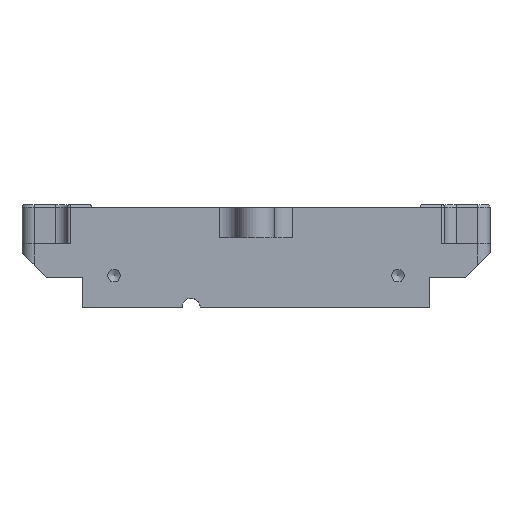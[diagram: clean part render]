
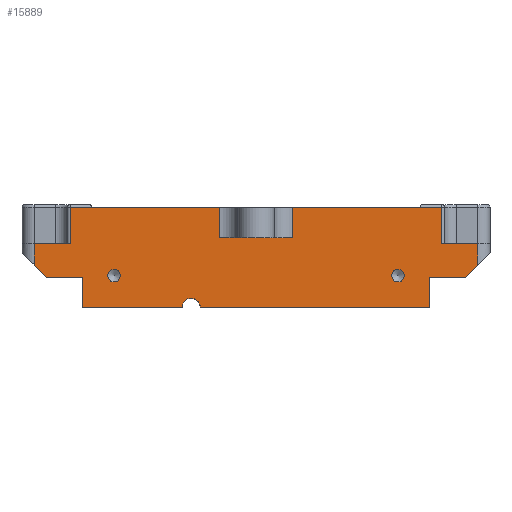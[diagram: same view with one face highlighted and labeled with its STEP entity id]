
A CAD part, left-side view. The second image highlights one B-rep face of the part: STEP entity #15889.
In plain terms, the highlighted planar face has unit normal (-1, 0, 0).
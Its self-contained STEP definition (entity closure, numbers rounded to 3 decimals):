
#299=FACE_BOUND('',#2519,.T.);
#300=FACE_BOUND('',#2520,.T.);
#633=PLANE('',#17609);
#1421=FACE_OUTER_BOUND('',#2518,.T.);
#2518=EDGE_LOOP('',(#13909,#13910,#13911,#13912,#13913,#13914,#13915,#13916,
#13917,#13918,#13919,#13920,#13921,#13922,#13923,#13924,#13925,#13926,#13927,
#13928,#13929,#13930));
#2519=EDGE_LOOP('',(#13931));
#2520=EDGE_LOOP('',(#13932));
#2960=LINE('',#24018,#4308);
#2963=LINE('',#24029,#4311);
#3768=LINE('',#26629,#5116);
#3771=LINE('',#26638,#5119);
#3821=LINE('',#26822,#5169);
#3852=LINE('',#26957,#5200);
#3855=LINE('',#26966,#5203);
#3857=LINE('',#26970,#5205);
#3858=LINE('',#26972,#5206);
#3859=LINE('',#26974,#5207);
#3860=LINE('',#26976,#5208);
#3861=LINE('',#26978,#5209);
#3862=LINE('',#26980,#5210);
#3863=LINE('',#26981,#5211);
#3864=LINE('',#26982,#5212);
#3865=LINE('',#26984,#5213);
#3866=LINE('',#26986,#5214);
#3867=LINE('',#26988,#5215);
#3868=LINE('',#26990,#5216);
#3869=LINE('',#26992,#5217);
#3870=LINE('',#26993,#5218);
#4308=VECTOR('',#18853,10.);
#4311=VECTOR('',#18862,10.);
#5116=VECTOR('',#21783,10.);
#5119=VECTOR('',#21792,10.);
#5169=VECTOR('',#21974,10.);
#5200=VECTOR('',#22085,10.);
#5203=VECTOR('',#22094,10.);
#5205=VECTOR('',#22098,10.);
#5206=VECTOR('',#22099,10.);
#5207=VECTOR('',#22100,10.);
#5208=VECTOR('',#22101,10.);
#5209=VECTOR('',#22102,10.);
#5210=VECTOR('',#22103,10.);
#5211=VECTOR('',#22104,10.);
#5212=VECTOR('',#22105,10.);
#5213=VECTOR('',#22106,10.);
#5214=VECTOR('',#22107,10.);
#5215=VECTOR('',#22108,10.);
#5216=VECTOR('',#22109,10.);
#5217=VECTOR('',#22110,10.);
#5218=VECTOR('',#22111,10.);
#6148=CIRCLE('',#17485,3.);
#6200=CIRCLE('',#17588,2.067);
#6202=CIRCLE('',#17592,2.067);
#6834=VERTEX_POINT('',#23998);
#6843=VERTEX_POINT('',#24015);
#6844=VERTEX_POINT('',#24017);
#6849=VERTEX_POINT('',#24027);
#7529=VERTEX_POINT('',#26531);
#7530=VERTEX_POINT('',#26532);
#7562=VERTEX_POINT('',#26628);
#7565=VERTEX_POINT('',#26636);
#7613=VERTEX_POINT('',#26820);
#7645=VERTEX_POINT('',#26914);
#7648=VERTEX_POINT('',#26923);
#7656=VERTEX_POINT('',#26953);
#7660=VERTEX_POINT('',#26964);
#7661=VERTEX_POINT('',#26969);
#7662=VERTEX_POINT('',#26971);
#7663=VERTEX_POINT('',#26973);
#7664=VERTEX_POINT('',#26975);
#7665=VERTEX_POINT('',#26977);
#7666=VERTEX_POINT('',#26979);
#7667=VERTEX_POINT('',#26983);
#7668=VERTEX_POINT('',#26985);
#7669=VERTEX_POINT('',#26987);
#7670=VERTEX_POINT('',#26989);
#7671=VERTEX_POINT('',#26991);
#8400=EDGE_CURVE('',#6843,#6844,#2960,.T.);
#8406=EDGE_CURVE('',#6849,#6834,#2963,.T.);
#9622=EDGE_CURVE('',#7529,#7530,#6148,.T.);
#9660=EDGE_CURVE('',#7530,#7562,#3768,.T.);
#9665=EDGE_CURVE('',#7565,#7529,#3771,.T.);
#9745=EDGE_CURVE('',#7613,#6843,#3821,.T.);
#9782=EDGE_CURVE('',#7645,#7645,#6200,.T.);
#9786=EDGE_CURVE('',#7648,#7648,#6202,.T.);
#9802=EDGE_CURVE('',#6844,#7656,#3852,.T.);
#9806=EDGE_CURVE('',#7660,#6849,#3855,.T.);
#9808=EDGE_CURVE('',#7565,#7661,#3857,.T.);
#9809=EDGE_CURVE('',#7661,#7662,#3858,.T.);
#9810=EDGE_CURVE('',#7663,#7662,#3859,.T.);
#9811=EDGE_CURVE('',#7664,#7663,#3860,.T.);
#9812=EDGE_CURVE('',#7665,#7664,#3861,.T.);
#9813=EDGE_CURVE('',#7666,#7665,#3862,.T.);
#9814=EDGE_CURVE('',#6834,#7666,#3863,.T.);
#9815=EDGE_CURVE('',#7660,#7656,#3864,.T.);
#9816=EDGE_CURVE('',#7667,#7613,#3865,.T.);
#9817=EDGE_CURVE('',#7667,#7668,#3866,.T.);
#9818=EDGE_CURVE('',#7669,#7668,#3867,.T.);
#9819=EDGE_CURVE('',#7670,#7669,#3868,.T.);
#9820=EDGE_CURVE('',#7670,#7671,#3869,.T.);
#9821=EDGE_CURVE('',#7671,#7562,#3870,.T.);
#13909=ORIENTED_EDGE('',*,*,#9665,.F.);
#13910=ORIENTED_EDGE('',*,*,#9808,.T.);
#13911=ORIENTED_EDGE('',*,*,#9809,.T.);
#13912=ORIENTED_EDGE('',*,*,#9810,.F.);
#13913=ORIENTED_EDGE('',*,*,#9811,.F.);
#13914=ORIENTED_EDGE('',*,*,#9812,.F.);
#13915=ORIENTED_EDGE('',*,*,#9813,.F.);
#13916=ORIENTED_EDGE('',*,*,#9814,.F.);
#13917=ORIENTED_EDGE('',*,*,#8406,.F.);
#13918=ORIENTED_EDGE('',*,*,#9806,.F.);
#13919=ORIENTED_EDGE('',*,*,#9815,.T.);
#13920=ORIENTED_EDGE('',*,*,#9802,.F.);
#13921=ORIENTED_EDGE('',*,*,#8400,.F.);
#13922=ORIENTED_EDGE('',*,*,#9745,.F.);
#13923=ORIENTED_EDGE('',*,*,#9816,.F.);
#13924=ORIENTED_EDGE('',*,*,#9817,.T.);
#13925=ORIENTED_EDGE('',*,*,#9818,.F.);
#13926=ORIENTED_EDGE('',*,*,#9819,.F.);
#13927=ORIENTED_EDGE('',*,*,#9820,.T.);
#13928=ORIENTED_EDGE('',*,*,#9821,.T.);
#13929=ORIENTED_EDGE('',*,*,#9660,.F.);
#13930=ORIENTED_EDGE('',*,*,#9622,.F.);
#13931=ORIENTED_EDGE('',*,*,#9782,.T.);
#13932=ORIENTED_EDGE('',*,*,#9786,.T.);
#15889=ADVANCED_FACE('',(#1421,#299,#300),#633,.T.);
#17485=AXIS2_PLACEMENT_3D('',#26533,#21731,#21732);
#17588=AXIS2_PLACEMENT_3D('',#26915,#22037,#22038);
#17592=AXIS2_PLACEMENT_3D('',#26924,#22047,#22048);
#17609=AXIS2_PLACEMENT_3D('',#26968,#22096,#22097);
#18853=DIRECTION('',(0.,-1.,0.));
#18862=DIRECTION('',(0.,-1.,0.));
#21731=DIRECTION('center_axis',(-1.,0.,0.));
#21732=DIRECTION('ref_axis',(0.,-0.707,0.707));
#21783=DIRECTION('',(0.,1.,0.));
#21792=DIRECTION('',(0.,1.,0.));
#21974=DIRECTION('',(0.,-1.,0.));
#22037=DIRECTION('center_axis',(1.,0.,0.));
#22038=DIRECTION('ref_axis',(0.,0.,-1.));
#22047=DIRECTION('center_axis',(1.,0.,0.));
#22048=DIRECTION('ref_axis',(0.,0.,-1.));
#22085=DIRECTION('',(0.,0.,-1.));
#22094=DIRECTION('',(0.,0.,1.));
#22096=DIRECTION('center_axis',(-1.,0.,0.));
#22097=DIRECTION('ref_axis',(0.,-1.,0.));
#22098=DIRECTION('',(0.,0.,1.));
#22099=DIRECTION('',(0.,-1.,0.));
#22100=DIRECTION('',(0.,0.707,-0.707));
#22101=DIRECTION('',(0.,0.,-1.));
#22102=DIRECTION('',(0.,-1.,0.));
#22103=DIRECTION('',(0.,0.,-1.));
#22104=DIRECTION('',(0.,-1.,0.));
#22105=DIRECTION('',(0.,1.,0.));
#22106=DIRECTION('',(0.,0.,1.));
#22107=DIRECTION('',(0.,1.,0.));
#22108=DIRECTION('',(0.,0.,1.));
#22109=DIRECTION('',(0.,0.707,0.707));
#22110=DIRECTION('',(0.,-1.,0.));
#22111=DIRECTION('',(0.,0.,-1.));
#23998=CARTESIAN_POINT('',(-50.,-54.5,33.));
#24015=CARTESIAN_POINT('',(-50.,54.5,33.));
#24017=CARTESIAN_POINT('',(-50.,12.,33.));
#24018=CARTESIAN_POINT('',(-50.,77.5,33.));
#24027=CARTESIAN_POINT('',(-50.,-12.,33.));
#24029=CARTESIAN_POINT('',(-50.,77.5,33.));
#26531=CARTESIAN_POINT('',(-50.,18.5,0.));
#26532=CARTESIAN_POINT('',(-50.,24.5,0.));
#26533=CARTESIAN_POINT('Origin',(-50.,21.5,0.));
#26628=CARTESIAN_POINT('',(-50.,57.5,0.));
#26629=CARTESIAN_POINT('',(-50.,-77.5,0.));
#26636=CARTESIAN_POINT('',(-50.,-57.5,0.));
#26638=CARTESIAN_POINT('',(-50.,-77.5,0.));
#26820=CARTESIAN_POINT('',(-50.,61.5,33.));
#26822=CARTESIAN_POINT('',(-50.,71.75,33.));
#26914=CARTESIAN_POINT('',(-50.,-47.,12.567));
#26915=CARTESIAN_POINT('Origin',(-50.,-47.,10.5));
#26923=CARTESIAN_POINT('',(-50.,47.,12.567));
#26924=CARTESIAN_POINT('Origin',(-50.,47.,10.5));
#26953=CARTESIAN_POINT('',(-50.,12.,23.));
#26957=CARTESIAN_POINT('',(-50.,12.,16.5));
#26964=CARTESIAN_POINT('',(-50.,-12.,23.));
#26966=CARTESIAN_POINT('',(-50.,-12.,16.5));
#26968=CARTESIAN_POINT('Origin',(-50.,77.5,0.));
#26969=CARTESIAN_POINT('',(-50.,-57.5,10.));
#26970=CARTESIAN_POINT('',(-50.,-57.5,0.));
#26971=CARTESIAN_POINT('',(-50.,-69.5,10.));
#26972=CARTESIAN_POINT('',(-50.,5.,10.));
#26973=CARTESIAN_POINT('',(-50.,-73.5,14.));
#26974=CARTESIAN_POINT('',(-50.,-32.25,-27.25));
#26975=CARTESIAN_POINT('',(-50.,-73.5,21.));
#26976=CARTESIAN_POINT('',(-50.,-73.5,0.));
#26977=CARTESIAN_POINT('',(-50.,-61.5,21.));
#26978=CARTESIAN_POINT('',(-50.,-77.5,21.));
#26979=CARTESIAN_POINT('',(-50.,-61.5,33.));
#26980=CARTESIAN_POINT('',(-50.,-61.5,16.5));
#26981=CARTESIAN_POINT('',(-50.,5.75,33.));
#26982=CARTESIAN_POINT('',(-50.,38.75,23.));
#26983=CARTESIAN_POINT('',(-50.,61.5,21.));
#26984=CARTESIAN_POINT('',(-50.,61.5,16.5));
#26985=CARTESIAN_POINT('',(-50.,73.5,21.));
#26986=CARTESIAN_POINT('',(-50.,77.5,21.));
#26987=CARTESIAN_POINT('',(-50.,73.5,14.));
#26988=CARTESIAN_POINT('',(-50.,73.5,0.));
#26989=CARTESIAN_POINT('',(-50.,69.5,10.));
#26990=CARTESIAN_POINT('',(-50.,71.,11.5));
#26991=CARTESIAN_POINT('',(-50.,57.5,10.));
#26992=CARTESIAN_POINT('',(-50.,72.5,10.));
#26993=CARTESIAN_POINT('',(-50.,57.5,0.));
